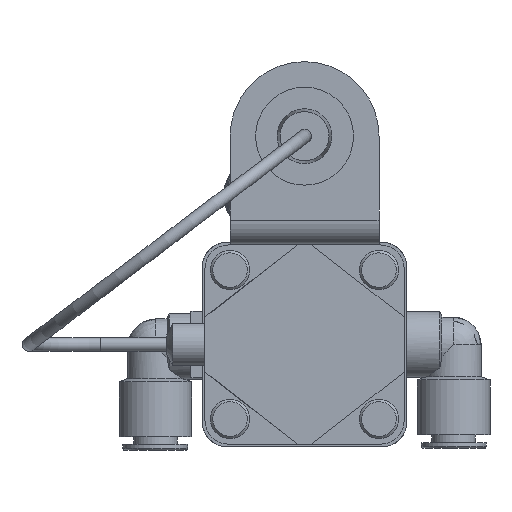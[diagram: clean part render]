
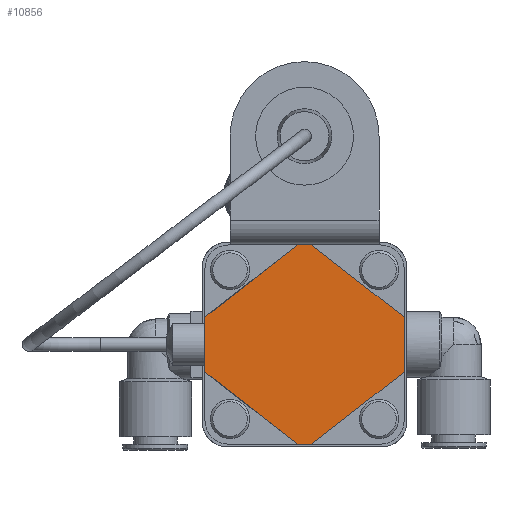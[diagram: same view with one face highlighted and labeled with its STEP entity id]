
A CAD part, front view. The second image highlights one B-rep face of the part: STEP entity #10856.
In plain terms, the highlighted planar face has unit normal (0, -1, 0).
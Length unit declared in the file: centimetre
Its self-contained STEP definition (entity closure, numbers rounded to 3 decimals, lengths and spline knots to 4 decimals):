
#810=LINE('',#18122,#1571);
#814=LINE('',#18131,#1575);
#815=LINE('',#18133,#1576);
#816=LINE('',#18134,#1577);
#817=LINE('',#18136,#1578);
#818=LINE('',#18138,#1579);
#819=LINE('',#18140,#1580);
#820=LINE('',#18141,#1581);
#1571=VECTOR('',#14483,1.);
#1575=VECTOR('',#14489,1.);
#1576=VECTOR('',#14490,1.);
#1577=VECTOR('',#14491,1.);
#1578=VECTOR('',#14492,1.);
#1579=VECTOR('',#14493,1.);
#1580=VECTOR('',#14494,1.);
#1581=VECTOR('',#14495,1.);
#2564=FACE_OUTER_BOUND('',#3311,.T.);
#3311=EDGE_LOOP('',(#8617,#8618,#8619,#8620,#8621,#8622,#8623,#8624));
#4843=VERTEX_POINT('',#18119);
#4844=VERTEX_POINT('',#18121);
#4847=VERTEX_POINT('',#18129);
#4848=VERTEX_POINT('',#18130);
#4849=VERTEX_POINT('',#18132);
#4850=VERTEX_POINT('',#18135);
#4851=VERTEX_POINT('',#18137);
#4852=VERTEX_POINT('',#18139);
#6164=EDGE_CURVE('',#4843,#4844,#810,.T.);
#6168=EDGE_CURVE('',#4847,#4848,#814,.T.);
#6169=EDGE_CURVE('',#4849,#4848,#815,.T.);
#6170=EDGE_CURVE('',#4849,#4844,#816,.T.);
#6171=EDGE_CURVE('',#4843,#4850,#817,.T.);
#6172=EDGE_CURVE('',#4851,#4850,#818,.T.);
#6173=EDGE_CURVE('',#4851,#4852,#819,.T.);
#6174=EDGE_CURVE('',#4847,#4852,#820,.T.);
#8617=ORIENTED_EDGE('',*,*,#6168,.T.);
#8618=ORIENTED_EDGE('',*,*,#6169,.F.);
#8619=ORIENTED_EDGE('',*,*,#6170,.T.);
#8620=ORIENTED_EDGE('',*,*,#6164,.F.);
#8621=ORIENTED_EDGE('',*,*,#6171,.T.);
#8622=ORIENTED_EDGE('',*,*,#6172,.F.);
#8623=ORIENTED_EDGE('',*,*,#6173,.T.);
#8624=ORIENTED_EDGE('',*,*,#6174,.F.);
#10310=PLANE('',#11973);
#10856=ADVANCED_FACE('',(#2564),#10310,.F.);
#11973=AXIS2_PLACEMENT_3D('',#18128,#14487,#14488);
#14483=DIRECTION('',(-1.,0.,0.));
#14487=DIRECTION('center_axis',(0.,1.,0.));
#14488=DIRECTION('ref_axis',(1.,0.,0.));
#14489=DIRECTION('',(-0.788,0.,-0.616));
#14490=DIRECTION('',(0.,0.,1.));
#14491=DIRECTION('',(0.788,0.,-0.616));
#14492=DIRECTION('',(0.788,0.,0.616));
#14493=DIRECTION('',(0.,0.,-1.));
#14494=DIRECTION('',(-0.788,0.,0.616));
#14495=DIRECTION('',(1.,0.,0.));
#18119=CARTESIAN_POINT('',(0.1843,-34.355,-2.54));
#18121=CARTESIAN_POINT('',(-0.1843,-34.355,-2.54));
#18122=CARTESIAN_POINT('',(2.54,-34.355,-2.54));
#18128=CARTESIAN_POINT('Origin',(0.,-34.355,0.));
#18129=CARTESIAN_POINT('',(-0.1843,-34.355,2.54));
#18130=CARTESIAN_POINT('',(-2.54,-34.355,0.6995));
#18131=CARTESIAN_POINT('',(-0.7432,-34.355,2.1033));
#18132=CARTESIAN_POINT('',(-2.54,-34.355,-0.6995));
#18133=CARTESIAN_POINT('',(-2.54,-34.355,-2.54));
#18134=CARTESIAN_POINT('',(-0.7432,-34.355,-2.1033));
#18135=CARTESIAN_POINT('',(2.54,-34.355,-0.6995));
#18136=CARTESIAN_POINT('',(0.7432,-34.355,-2.1033));
#18137=CARTESIAN_POINT('',(2.54,-34.355,0.6995));
#18138=CARTESIAN_POINT('',(2.54,-34.355,2.54));
#18139=CARTESIAN_POINT('',(0.1843,-34.355,2.54));
#18140=CARTESIAN_POINT('',(0.7432,-34.355,2.1033));
#18141=CARTESIAN_POINT('',(-2.54,-34.355,2.54));
